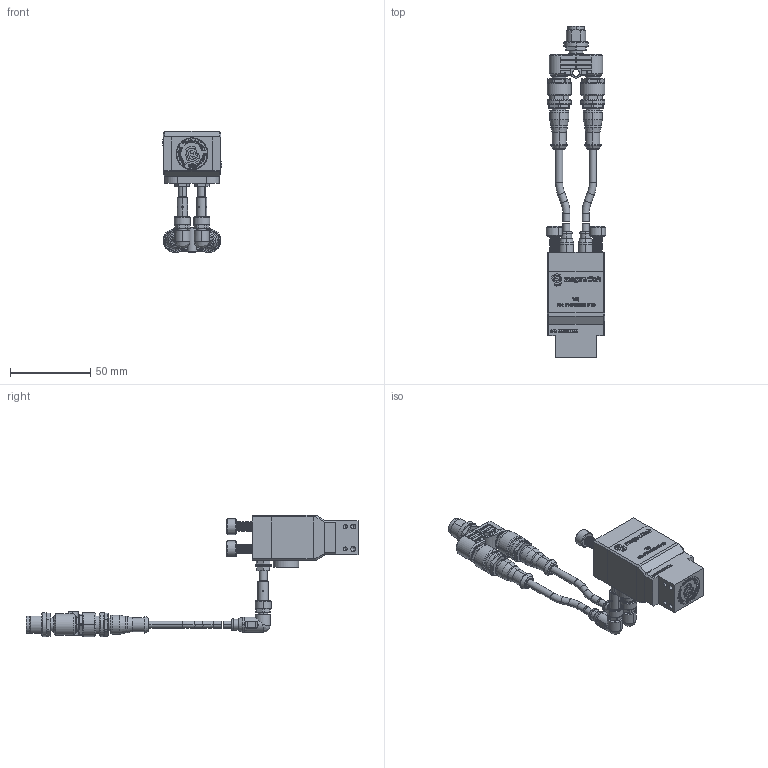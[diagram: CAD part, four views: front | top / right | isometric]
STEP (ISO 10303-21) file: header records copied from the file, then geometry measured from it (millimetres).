
FILE_DESCRIPTION (( 'STEP AP214' ), '1' );
FILE_NAME ('88001374_0.STEP', '2023-10-03T14:46:54', ( '' ), ( '' ), 'SwSTEP 2.0', 'SolidWorks 2022', '' );
FILE_SCHEMA (( 'AUTOMOTIVE_DESIGN' ));
Length unit declared in the file: millimetre
Products named in the file (26): 3001796; 8800864; 81401258; M8-Buchse 3pol gewinkelt; 7000-41181; 8800755; 88001376; 3202339; 240647; 88001376-1; 280069; 4602117_11; T20_ACTUATOR_RAS-015; 8800754; 180217; M12-Stecker gerade A-Kod 3-pol; 4602117_3; 88001374_0; MOCK_SHAFT; 8800755-1; 3001758; 4602117_9; 1801577; 320961; 4602117_5; 7000573
Assembly tree (37 placements, depth 4):
  88001374_0
    81401258
      7000573
        240647
        320961
      280069
        T20_ACTUATOR_RAS-015
        MOCK_SHAFT
        3001758
    8800755
      M8-Buchse 3pol gewinkelt
      M12-Stecker gerade A-Kod 3-pol
    8800755-1
      M8-Buchse 3pol gewinkelt
      M12-Stecker gerade A-Kod 3-pol
    8800754
      7000-41181
    8800864
      3001796
      3202339
      1801577  x2
      180217  x2
    88001376
      4602117_3  x2
      4602117_5  x2
      4602117_9
      4602117_11
    88001376-1
      4602117_3  x2
      4602117_5  x2
      4602117_9
      4602117_11
Bounding box: 37 x 207.08 x 75.7 mm (x, y, z)
Volume: 85538.9 mm3; surface area: 42384.6 mm2
Topology: 28 solids, 32 shells, 3012 faces, 7792 edges, 5075 vertices
Faces by surface type: plane 1378, cylinder 779, bspline 586, cone 221, torus 48
Entity records: 105050 total; most frequent: CARTESIAN_POINT 41769, ORIENTED_EDGE 12606, DIRECTION 9473, EDGE_CURVE 6303, VERTEX_POINT 4140, LINE 3775, VECTOR 3775, AXIS2_PLACEMENT_3D 2849
